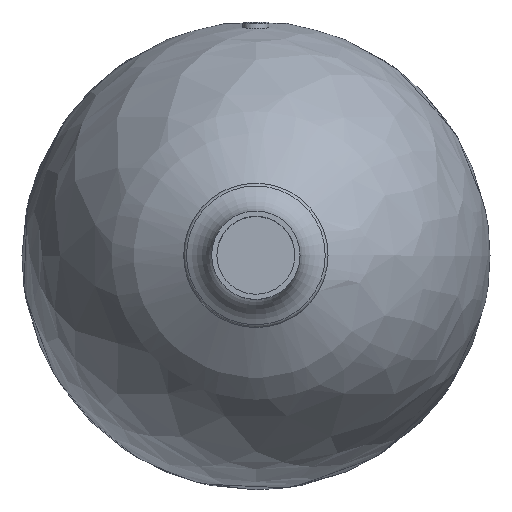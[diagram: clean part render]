
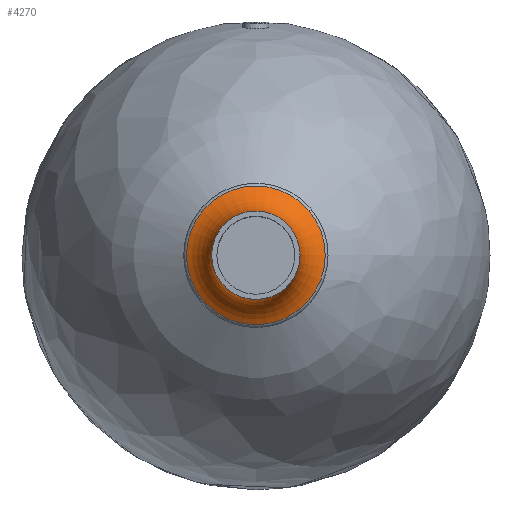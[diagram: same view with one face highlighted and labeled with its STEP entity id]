
A CAD part, top view. The second image highlights one B-rep face of the part: STEP entity #4270.
In plain terms, the highlighted toroidal (fillet/blend) face has major radius 35.074 mm and minor radius 18.074 mm.
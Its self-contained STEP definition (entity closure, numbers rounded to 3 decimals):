
#29=TOROIDAL_SURFACE('',#4862,35.074,18.074);
#877=CIRCLE('',#4861,17.);
#878=CIRCLE('',#4863,26.672);
#1951=ORIENTED_EDGE('',*,*,#2582,.T.);
#1952=ORIENTED_EDGE('',*,*,#2581,.F.);
#2581=EDGE_CURVE('',#3014,#3014,#877,.T.);
#2582=EDGE_CURVE('',#3015,#3015,#878,.T.);
#3014=VERTEX_POINT('',#10445);
#3015=VERTEX_POINT('',#10448);
#3551=EDGE_LOOP('',(#1951));
#3552=EDGE_LOOP('',(#1952));
#3962=FACE_BOUND('',#3551,.T.);
#3963=FACE_BOUND('',#3552,.T.);
#4270=ADVANCED_FACE('',(#3962,#3963),#29,.F.);
#4861=AXIS2_PLACEMENT_3D('',#10444,#6050,#6051);
#4862=AXIS2_PLACEMENT_3D('',#10446,#6052,#6053);
#4863=AXIS2_PLACEMENT_3D('',#10447,#6054,#6055);
#6050=DIRECTION('',(0.,0.,1.));
#6051=DIRECTION('',(0.,-1.,0.));
#6052=DIRECTION('',(0.,0.,1.));
#6053=DIRECTION('',(0.,-1.,0.));
#6054=DIRECTION('',(0.,0.,1.));
#6055=DIRECTION('',(0.,-1.,0.));
#10444=CARTESIAN_POINT('',(0.,0.,207.675));
#10445=CARTESIAN_POINT('',(0.,-17.,207.675));
#10446=CARTESIAN_POINT('',(0.,0.,207.675));
#10447=CARTESIAN_POINT('',(0.,0.,191.673));
#10448=CARTESIAN_POINT('',(0.,-26.672,191.673));
